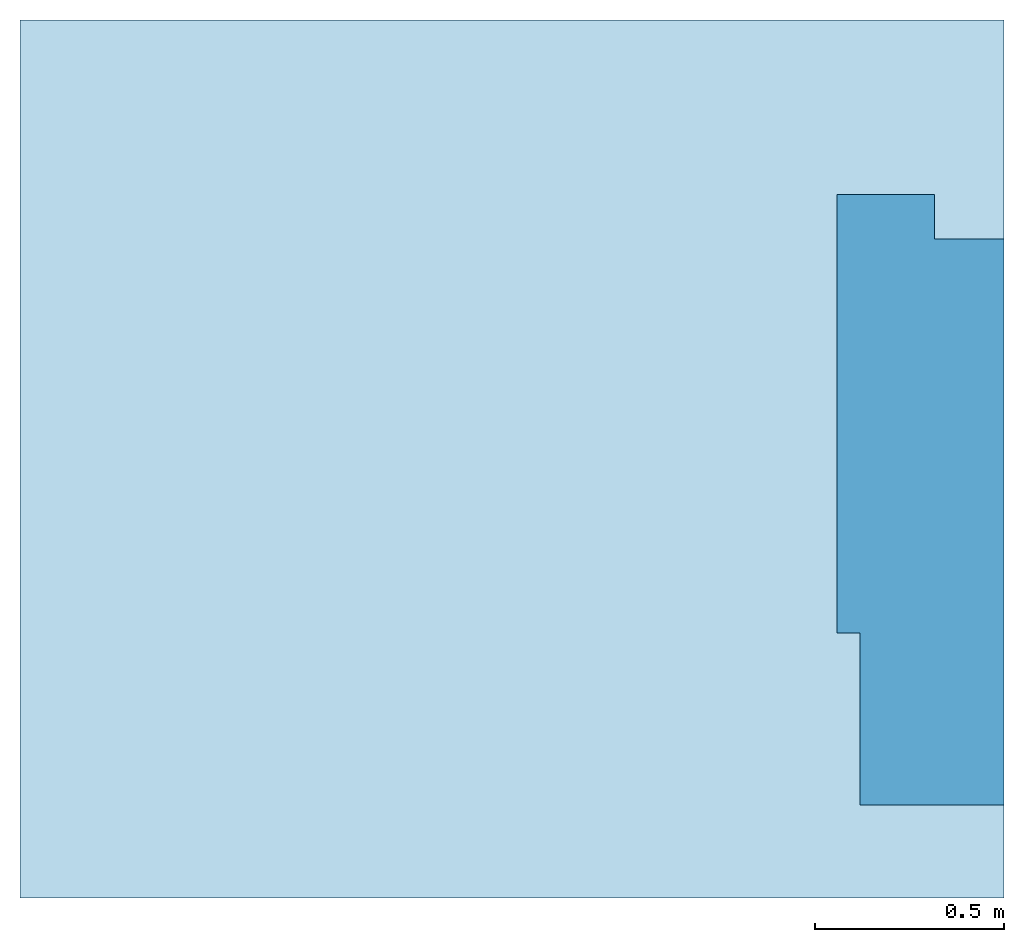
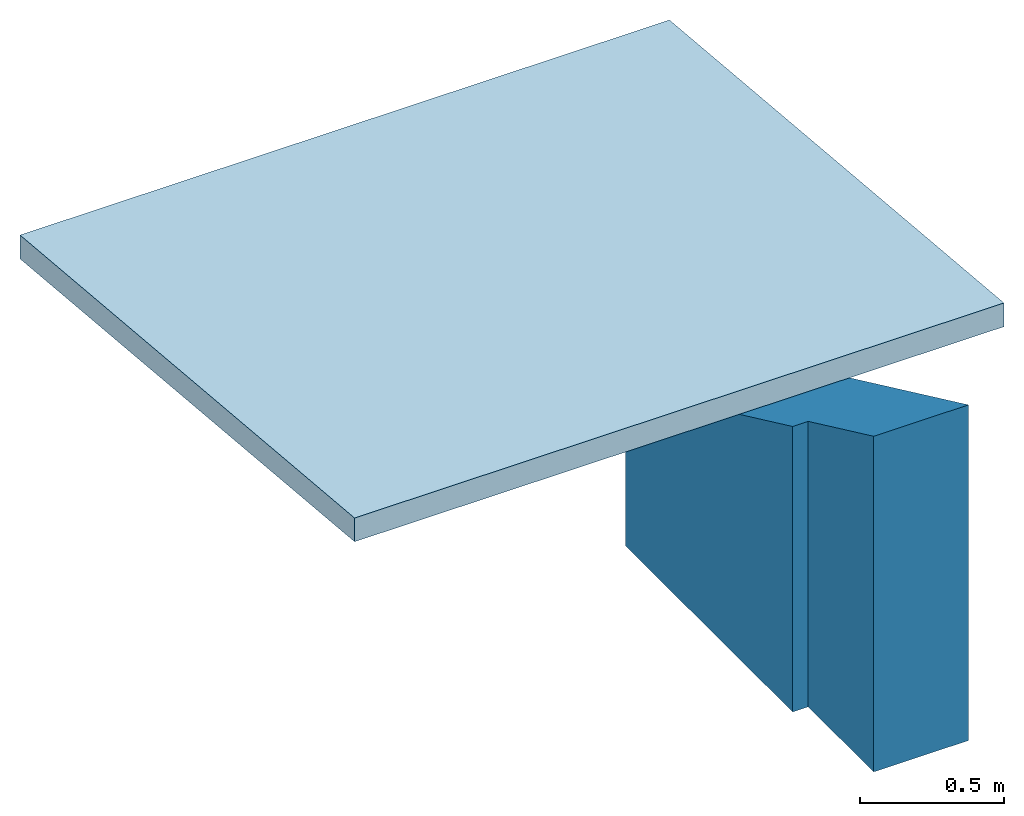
# One storey: 2 slabs, 1 element without a shape of its own.
"""IFC2X3 building model written with IfcOpenShell, lengths in millimetres."""

from ifc_helpers import new_model, entity, si_unit, converted_unit, derived_unit, direction, frame, origin, place, context, subcontext, project, spatial, polyline, outline, extrude, face_set, surface_model, material, element, aggregate, save


model = new_model("IFC2X3")

# Units and contexts
model_context = context("Model", 3, precision=0.01, world=origin(), true_north=direction((6.12303176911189e-17, 1.0)))
body_context = subcontext(model_context, "Body", "Model", "MODEL_VIEW")
ifc_project = project(units=[si_unit("LENGTHUNIT", "METRE", prefix="MILLI"), si_unit("AREAUNIT", "SQUARE_METRE"), si_unit("VOLUMEUNIT", "CUBIC_METRE"), converted_unit("PLANEANGLEUNIT", "DEGREE", entity("IfcRatioMeasure", 0.0174532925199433), si_unit("PLANEANGLEUNIT", "RADIAN"), dimensions=[0, 0, 0, 0, 0, 0, 0]), si_unit("MASSUNIT", "GRAM", prefix="KILO"), derived_unit("MASSDENSITYUNIT", [(si_unit("MASSUNIT", "GRAM", prefix="KILO"), 1), (si_unit("LENGTHUNIT", "METRE"), -3)]), si_unit("TIMEUNIT", "SECOND"), si_unit("FREQUENCYUNIT", "HERTZ"), si_unit("THERMODYNAMICTEMPERATUREUNIT", "DEGREE_CELSIUS"), derived_unit("THERMALTRANSMITTANCEUNIT", [(si_unit("MASSUNIT", "GRAM", prefix="KILO"), 1), (si_unit("THERMODYNAMICTEMPERATUREUNIT", "KELVIN"), -1), (si_unit("TIMEUNIT", "SECOND"), -3)]), derived_unit("VOLUMETRICFLOWRATEUNIT", [(si_unit("LENGTHUNIT", "METRE"), 3), (si_unit("TIMEUNIT", "SECOND"), -1)]), si_unit("ELECTRICCURRENTUNIT", "AMPERE"), si_unit("ELECTRICVOLTAGEUNIT", "VOLT"), si_unit("POWERUNIT", "WATT"), si_unit("FORCEUNIT", "NEWTON", prefix="KILO"), si_unit("ILLUMINANCEUNIT", "LUX"), si_unit("LUMINOUSFLUXUNIT", "LUMEN"), si_unit("LUMINOUSINTENSITYUNIT", "CANDELA"), derived_unit("USERDEFINED", [(si_unit("MASSUNIT", "GRAM", prefix="KILO"), -1), (si_unit("LENGTHUNIT", "METRE"), -2), (si_unit("TIMEUNIT", "SECOND"), 3), (si_unit("LUMINOUSFLUXUNIT", "LUMEN"), 1)]), derived_unit("LINEARVELOCITYUNIT", [(si_unit("LENGTHUNIT", "METRE"), 1), (si_unit("TIMEUNIT", "SECOND"), -1)]), si_unit("PRESSUREUNIT", "PASCAL"), derived_unit("USERDEFINED", [(si_unit("LENGTHUNIT", "METRE"), -2), (si_unit("MASSUNIT", "GRAM", prefix="KILO"), 1), (si_unit("TIMEUNIT", "SECOND"), -2)])], contexts=[model_context])

# Site, building, storey
site_placement = place(None, frame((-151.875543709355, 2715.0, 0.0)))
site = spatial("IfcSite", under=ifc_project, at=site_placement, Name="Surface", CompositionType="ELEMENT")
building_placement = place(site_placement, origin())
building = spatial("IfcBuilding", under=site, at=building_placement, CompositionType="ELEMENT")
storey_placement = place(building_placement, frame((0.0, 0.0, 13800.0)))
storey = spatial("IfcBuildingStorey", under=building, at=storey_placement, Name="Katus vent.", CompositionType="ELEMENT", Elevation=13800.0000000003)

# Roof, slab
ifc_material_1 = material(Name="Paint - Dark Gray")
roof_placement = place(storey_placement, origin())
roof = element("IfcRoof", 1, at=roof_placement, inside=storey, material=ifc_material_1, Name="KATUS - 002:KATUS - 002", ObjectType="KATUS - 002:KATUS - 002", ShapeType="NOTDEFINED")
slab_1_placement = place(storey_placement, origin())
slab_1 = element("IfcSlab", 2, at=slab_1_placement, material=ifc_material_1, Name="KATUS - 002:KATUS - 002:1", ObjectType="KATUS - 002:KATUS - 002", PredefinedType="ROOF", context=body_context, shape_type="SweptSolid", body=[
    extrude(outline(polyline([(-154.785933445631, -1160.0), (-54.3803338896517, -1160.0), (154.785933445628, 1160.0), (54.3803338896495, 1160.0), (-154.785933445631, -1160.0)])), frame((-2600.12445449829, 5231.05917363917, 4365.12721861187), z_axis=(1.0, 0.0, 0.0), x_axis=(0.0, 0.0, 1.0)), (0.0, 0.0, 1.0), 2600.0),
])
aggregate(roof, [slab_1])

# Slab
ifc_material_2 = material(Name="Paint - Sand Beige")
slab_2_placement = place(storey_placement, frame((-441.883383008, 4317.10433958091, 2518.66598129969)))
element("IfcSlab", 3, at=slab_2_placement, inside=storey, material=ifc_material_2, Name="VAHELAGI - 005:VAHELAGI - 005", ObjectType="VAHELAGI - 005:VAHELAGI - 005", PredefinedType="FLOOR", context=body_context, shape_type="SurfaceModel", body=[
    surface_model("IfcFaceBasedSurfaceModel", [(0.0, 1613.00659181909, 0.0), (0.0, 454.279756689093, 0.0), (0.0, 454.279756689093, 1208.3828784), (0.0, 1613.00659181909, 666.771196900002), (62.0135614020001, 1.90925717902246e-08, 0.0), (441.758928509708, 1.90925717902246e-08, 0.0), (441.883383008, 1494.68994142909, 0.0), (258.582733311, 1494.68994142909, 0.0), (258.582733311, 1613.00659181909, 0.0), (0.0, 1613.00659181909, 0.0), (0.0, 454.279756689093, 0.0), (62.0135614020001, 454.279756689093, 0.0), (0.0, 454.279756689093, 0.0), (62.0135614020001, 454.279756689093, 0.0), (62.0135614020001, 454.279756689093, 1208.3828784), (0.0, 454.279756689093, 1208.3828784), (0.0, 454.279756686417, 1208.38287839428), (0.0, 1613.00659181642, 666.771196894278), (258.582733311, 1613.00659181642, 666.771196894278), (258.582733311, 1494.68994145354, 722.074723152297), (441.883383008, 1494.68994145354, 722.074723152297), (441.758928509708, 0.0, 1420.72215925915), (62.0135614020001, 0.0, 1420.72215925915), (62.0135614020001, 454.279756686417, 1208.38287839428), (0.0, 1613.00659181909, 0.0), (0.0, 1613.00659181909, 666.771196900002), (258.582733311, 1613.00659181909, 666.771196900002), (258.582733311, 1613.00659181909, 0.0), (62.0135614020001, 1.90925717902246e-08, 0.0), (62.0135614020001, 1.90925717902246e-08, 1420.7221593), (62.0135614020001, 454.279756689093, 1208.3828784), (62.0135614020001, 454.279756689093, 0.0), (258.582733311, 1494.68994142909, 0.0), (258.582733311, 1613.00659181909, 0.0), (258.582733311, 1613.00659181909, 666.771196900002), (258.582733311, 1494.68994142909, 722.074723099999), (258.582733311, 1494.68994142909, 0.0), (258.582733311, 1494.68994142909, 722.074723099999), (441.883383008, 1494.68994142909, 722.074723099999), (441.883383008, 1494.68994142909, 0.0), (441.758928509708, 1.90925717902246e-08, 1420.7221593), (441.758928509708, 1.90925717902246e-08, 0.0), (441.883383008, 1494.68994142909, 0.0), (441.883383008, 1494.68994142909, 722.074723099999), (62.0135614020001, 1.90925717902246e-08, 1420.7221593), (62.0135614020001, 1.90925717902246e-08, 0.0), (441.758928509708, 1.90925717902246e-08, 0.0), (441.758928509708, 1.90925717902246e-08, 1420.7221593)], [face_set([[[0, 1, 2, 3]]]), face_set([[[4, 5, 6, 7, 8, 9, 10, 11]]]), face_set([[[12, 13, 14, 15]]]), face_set([[[16, 17, 18, 19, 20, 21, 22, 23]]]), face_set([[[24, 25, 26, 27]]]), face_set([[[28, 29, 30, 31]]]), face_set([[[32, 33, 34, 35]]]), face_set([[[36, 37, 38, 39]]]), face_set([[[40, 41, 42, 43]]]), face_set([[[44, 45, 46, 47]]])]),
])

save(model, "model.ifc")
